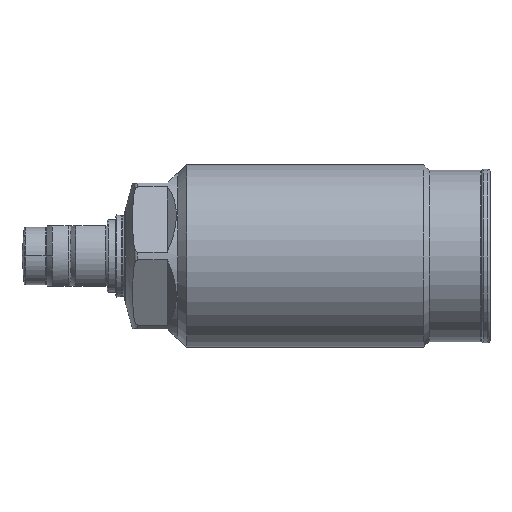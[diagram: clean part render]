
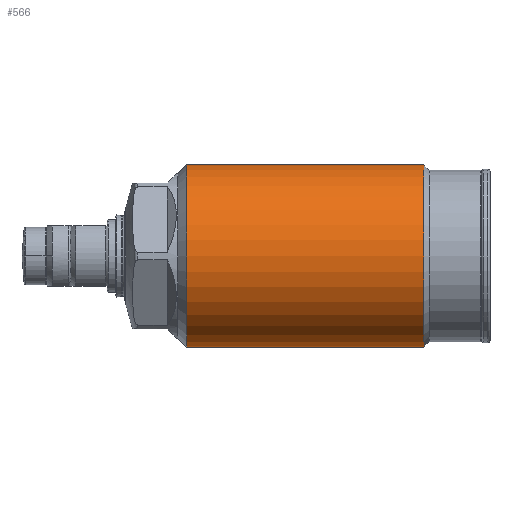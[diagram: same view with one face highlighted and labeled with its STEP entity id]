
A CAD part, left-side view. The second image highlights one B-rep face of the part: STEP entity #566.
In plain terms, the highlighted cylindrical face has radius 15 mm (diameter 30 mm), a partial arc.
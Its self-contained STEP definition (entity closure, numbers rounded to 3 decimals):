
#566=ADVANCED_FACE('',(#835),#719,.T.);
#719=CYLINDRICAL_SURFACE('',#3710,15.);
#835=FACE_OUTER_BOUND('',#1044,.T.);
#1044=EDGE_LOOP('',(#1832,#1833,#1834,#1835));
#1228=LINE('',#5470,#1360);
#1229=LINE('',#5474,#1361);
#1360=VECTOR('',#4267,1.);
#1361=VECTOR('',#4270,1.);
#1832=ORIENTED_EDGE('',*,*,#2840,.T.);
#1833=ORIENTED_EDGE('',*,*,#2934,.T.);
#1834=ORIENTED_EDGE('',*,*,#2842,.F.);
#1835=ORIENTED_EDGE('',*,*,#2933,.F.);
#2512=VERTEX_POINT('',#5465);
#2513=VERTEX_POINT('',#5467);
#2514=VERTEX_POINT('',#5471);
#2515=VERTEX_POINT('',#5473);
#2840=EDGE_CURVE('',#2514,#2512,#1228,.T.);
#2842=EDGE_CURVE('',#2515,#2513,#1229,.T.);
#2933=EDGE_CURVE('',#2514,#2515,#3331,.T.);
#2934=EDGE_CURVE('',#2512,#2513,#3332,.T.);
#3331=CIRCLE('',#3707,15.);
#3332=CIRCLE('',#3709,15.);
#3707=AXIS2_PLACEMENT_3D('',#5813,#4505,#4506);
#3709=AXIS2_PLACEMENT_3D('',#5815,#4509,#4510);
#3710=AXIS2_PLACEMENT_3D('',#5816,#4511,#4512);
#4267=DIRECTION('',(0.,1.,0.));
#4270=DIRECTION('',(0.,1.,0.));
#4505=DIRECTION('',(0.,-1.,0.));
#4506=DIRECTION('',(0.,0.,-1.));
#4509=DIRECTION('',(0.,-1.,0.));
#4510=DIRECTION('',(0.,0.,-1.));
#4511=DIRECTION('',(0.,-1.,0.));
#4512=DIRECTION('',(0.,0.,1.));
#5465=CARTESIAN_POINT('',(0.,56.228,15.));
#5467=CARTESIAN_POINT('',(0.,56.228,-15.));
#5470=CARTESIAN_POINT('',(0.,0.,15.));
#5471=CARTESIAN_POINT('',(0.,17.228,15.));
#5473=CARTESIAN_POINT('',(0.,17.228,-15.));
#5474=CARTESIAN_POINT('',(0.,0.,-15.));
#5813=CARTESIAN_POINT('',(0.,17.228,0.));
#5815=CARTESIAN_POINT('',(0.,56.228,0.));
#5816=CARTESIAN_POINT('',(0.,0.,0.));
